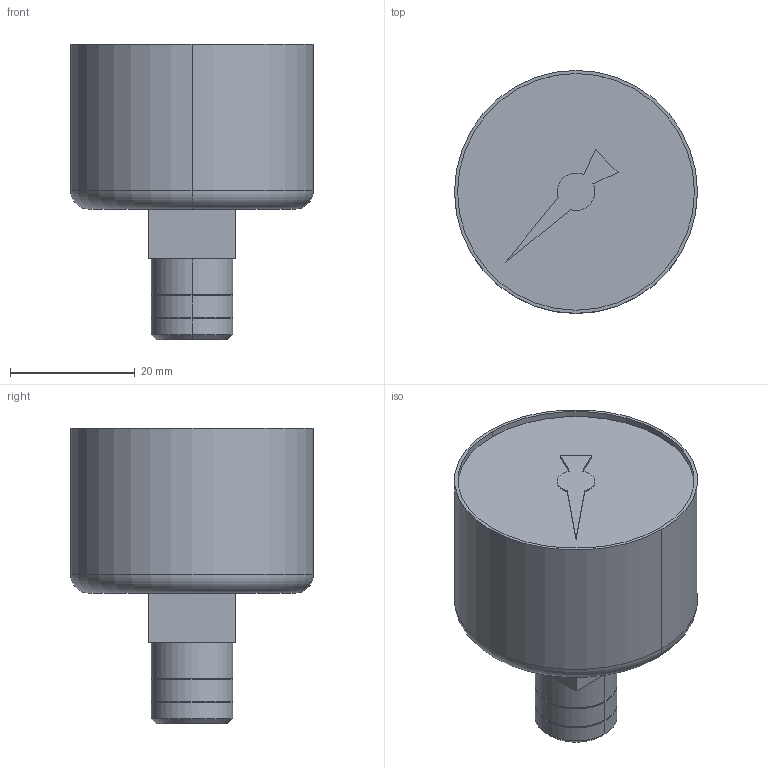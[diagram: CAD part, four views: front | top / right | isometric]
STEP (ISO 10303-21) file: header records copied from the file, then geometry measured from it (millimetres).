
FILE_DESCRIPTION((''),'2;1');
FILE_NAME('R412004408','2023-11-14T16:17:08',('THD3HC'),(''),'CREO PARAMETRIC BY PTC INC, 2020044','CREO PARAMETRIC BY PTC INC, 2020044','');
FILE_SCHEMA(('CONFIG_CONTROL_DESIGN','SHAPE_APPEARANCE_LAYERS_GROUPS'));
Length unit declared in the file: millimetre
Products named in the file (1): R412004408
Bounding box: 39 x 39 x 47.5 mm (x, y, z)
Volume: 33631.2 mm3; surface area: 6696.7 mm2
Topology: 1 solids, 1 shells, 42 faces, 89 edges, 54 vertices
Faces by surface type: plane 16, cylinder 14, cone 10, torus 2
Entity records: 1547 total; most frequent: DIRECTION 211, CARTESIAN_POINT 185, ORIENTED_EDGE 178, PRESENTATION_STYLE_ASSIGNMENT 98, STYLED_ITEM 90, CURVE_STYLE 89, EDGE_CURVE 89, AXIS2_PLACEMENT_3D 80
